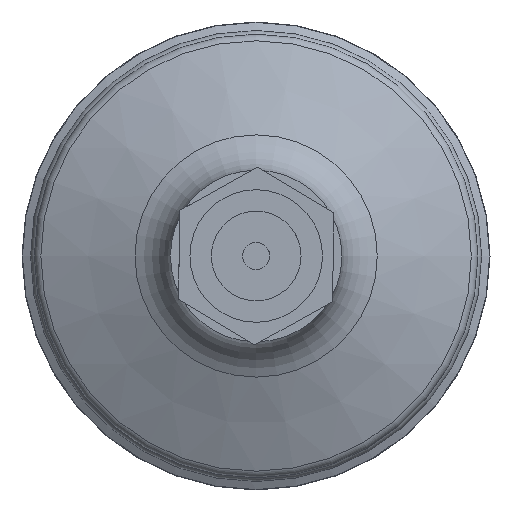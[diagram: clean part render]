
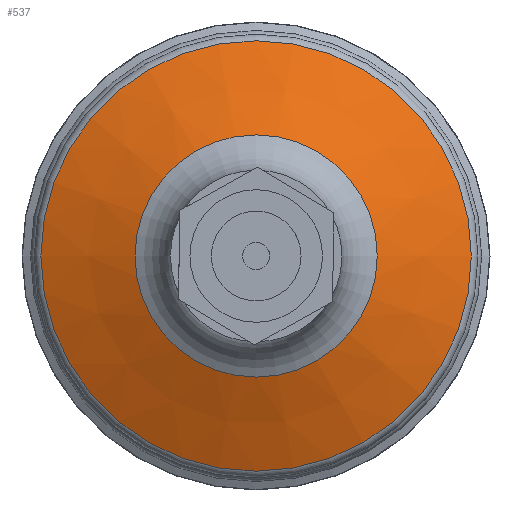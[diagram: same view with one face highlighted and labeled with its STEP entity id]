
A CAD part, left-side view. The second image highlights one B-rep face of the part: STEP entity #537.
In plain terms, the highlighted conical face has half-angle 66.658 degrees and reference radius 20.5 mm.
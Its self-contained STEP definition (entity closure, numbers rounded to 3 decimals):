
#121=CONICAL_SURFACE('',#627,20.5,66.658);
#131=FACE_BOUND('',#212,.T.);
#160=FACE_OUTER_BOUND('',#211,.T.);
#211=EDGE_LOOP('',(#420));
#212=EDGE_LOOP('',(#421));
#275=CIRCLE('',#626,27.592);
#276=CIRCLE('',#628,15.528);
#304=VERTEX_POINT('',#895);
#305=VERTEX_POINT('',#898);
#353=EDGE_CURVE('',#304,#304,#275,.T.);
#354=EDGE_CURVE('',#305,#305,#276,.T.);
#420=ORIENTED_EDGE('',*,*,#354,.F.);
#421=ORIENTED_EDGE('',*,*,#353,.F.);
#537=ADVANCED_FACE('',(#160,#131),#121,.T.);
#626=AXIS2_PLACEMENT_3D('',#896,#721,#722);
#627=AXIS2_PLACEMENT_3D('',#897,#723,#724);
#628=AXIS2_PLACEMENT_3D('',#899,#725,#726);
#721=DIRECTION('center_axis',(1.,0.,0.));
#722=DIRECTION('ref_axis',(0.,-1.,0.));
#723=DIRECTION('center_axis',(1.,0.,0.));
#724=DIRECTION('ref_axis',(0.,1.,0.));
#725=DIRECTION('center_axis',(-1.,0.,
0.));
#726=DIRECTION('ref_axis',(0.,-1.,0.));
#895=CARTESIAN_POINT('',(-24.988,10.971,0.));
#896=CARTESIAN_POINT('Origin',(-24.977,-16.621,0.));
#897=CARTESIAN_POINT('Origin',(-28.037,-16.622,0.));
#898=CARTESIAN_POINT('',(-30.189,-1.095,0.));
#899=CARTESIAN_POINT('Origin',(-30.183,-16.623,0.));
